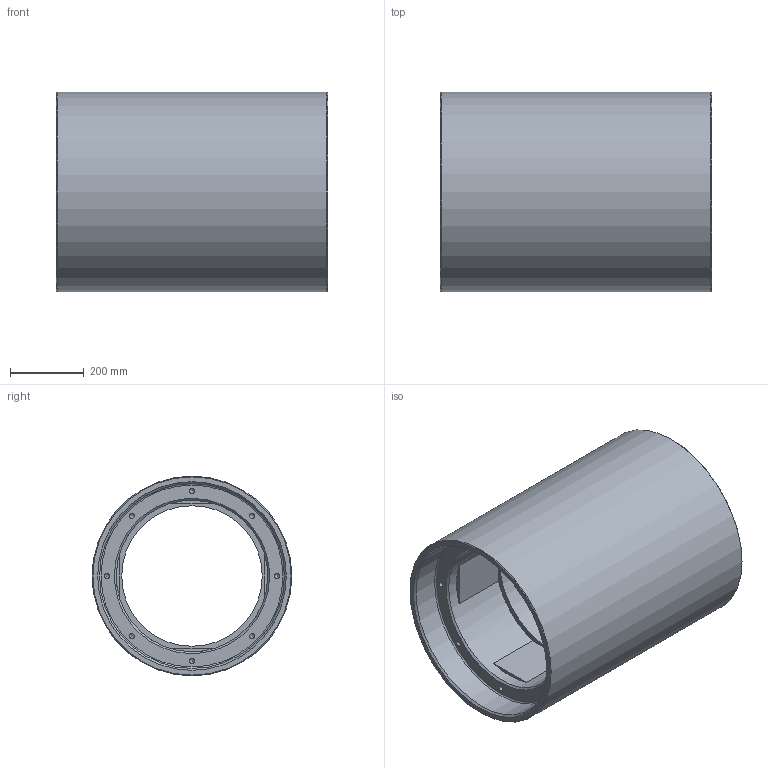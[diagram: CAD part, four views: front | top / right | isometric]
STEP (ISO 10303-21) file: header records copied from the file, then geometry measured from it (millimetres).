
FILE_DESCRIPTION(/* description */ (''),/* implementation_level */ '2;1');
FILE_NAME(/* name */ 'C:\Users\jbart\OneDrive\Plocha\Nová složka\3D modely - stp\Plášť bubnu.stp',/* time_stamp */ '2025-05-15T16:50:04+02:00',/* author */ ('jbart'),/* organization */ (''),/* preprocessor_version */ 'ST-DEVELOPER v18.1',/* originating_system */ 'Autodesk Inventor 2022',/* authorisation */ '');
FILE_SCHEMA (('AUTOMOTIVE_DESIGN { 1 0 10303 214 3 1 1 }'));
Length unit declared in the file: millimetre
Products named in the file (1): Plášť bubnu
Bounding box: 734 x 540 x 540 mm (x, y, z)
Volume: 59094352.1 mm3; surface area: 2478187 mm2
Topology: 1 solids, 1 shells, 71 faces, 176 edges, 112 vertices
Faces by surface type: cylinder 24, plane 23, cone 22, torus 2
Full cylindrical faces by diameter (mm): 13.835 x17, 26 x1, 380 x1, 410 x1, 420 x1, 500 x2, 540 x1
Entity records: 2150 total; most frequent: CARTESIAN_POINT 413, DIRECTION 378, ORIENTED_EDGE 320, EDGE_CURVE 160, AXIS2_PLACEMENT_3D 150, VERTEX_POINT 112, EDGE_LOOP 96, LINE 78
